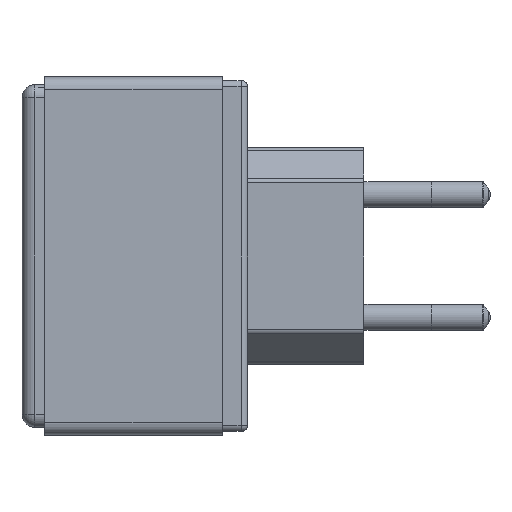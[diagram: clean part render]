
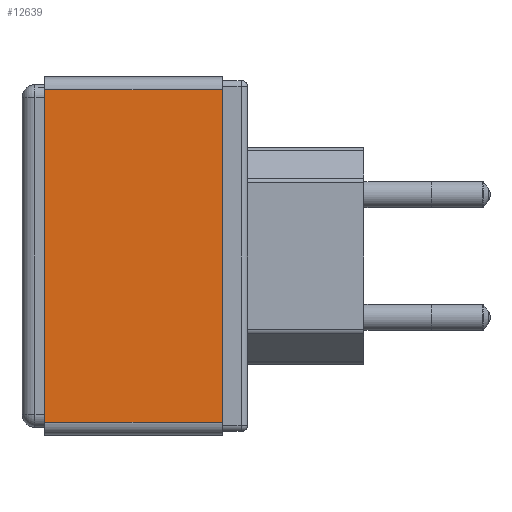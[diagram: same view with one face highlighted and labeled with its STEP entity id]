
A CAD part, left-side view. The second image highlights one B-rep face of the part: STEP entity #12639.
In plain terms, the highlighted planar face has unit normal (-1, 0, 0) as drawn and (1, 0, 0) by its records, which use the part's own axes.
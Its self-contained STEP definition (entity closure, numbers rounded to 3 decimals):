
#48 = AXIS2_PLACEMENT_3D ( 'NONE', #127, #5081, #8117 ) ;
#127 = CARTESIAN_POINT ( 'NONE',  ( 60.25, 15.5, 27.7 ) ) ;
#164 = VECTOR ( 'NONE', #4401, 1000. ) ;
#373 = VERTEX_POINT ( 'NONE', #9050 ) ;
#618 = CARTESIAN_POINT ( 'NONE',  ( 60.25, -15.5, 25.7 ) ) ;
#673 = LINE ( 'NONE', #10226, #10986 ) ;
#1176 = EDGE_LOOP ( 'NONE', ( #8311, #10511, #3227, #2224 ) ) ;
#1275 = CARTESIAN_POINT ( 'NONE',  ( 60.25, 12., 25.7 ) ) ;
#2224 = ORIENTED_EDGE ( 'NONE', *, *, #5123, .T. ) ;
#3227 = ORIENTED_EDGE ( 'NONE', *, *, #9818, .T. ) ;
#3230 = CARTESIAN_POINT ( 'NONE',  ( 60.25, -15.5, 27.7 ) ) ;
#3334 = CARTESIAN_POINT ( 'NONE',  ( 60.25, -15.5, -25.7 ) ) ;
#4401 = DIRECTION ( 'NONE',  ( 0., 0., 1. ) ) ;
#5081 = DIRECTION ( 'NONE',  ( -1., 0., 0. ) ) ;
#5123 = EDGE_CURVE ( 'NONE', #8109, #373, #10382, .T. ) ;
#5342 = CARTESIAN_POINT ( 'NONE',  ( 60.25, 12., 27.7 ) ) ;
#6245 = DIRECTION ( 'NONE',  ( 0., 1., 0. ) ) ;
#6728 = LINE ( 'NONE', #5342, #164 ) ;
#6907 = EDGE_CURVE ( 'NONE', #7577, #10124, #673, .T. ) ;
#7442 = VECTOR ( 'NONE', #10591, 1000. ) ;
#7577 = VERTEX_POINT ( 'NONE', #3334 ) ;
#8109 = VERTEX_POINT ( 'NONE', #1275 ) ;
#8117 = DIRECTION ( 'NONE',  ( 0., 0., 1. ) ) ;
#8213 = VECTOR ( 'NONE', #11220, 1000. ) ;
#8311 = ORIENTED_EDGE ( 'NONE', *, *, #12106, .T. ) ;
#8858 = LINE ( 'NONE', #3230, #8213 ) ;
#9050 = CARTESIAN_POINT ( 'NONE',  ( 60.25, -15.5, 25.7 ) ) ;
#9098 = FACE_OUTER_BOUND ( 'NONE', #1176, .T. ) ;
#9818 = EDGE_CURVE ( 'NONE', #10124, #8109, #6728, .T. ) ;
#10124 = VERTEX_POINT ( 'NONE', #12907 ) ;
#10226 = CARTESIAN_POINT ( 'NONE',  ( 60.25, 15.5, -25.7 ) ) ;
#10382 = LINE ( 'NONE', #618, #7442 ) ;
#10511 = ORIENTED_EDGE ( 'NONE', *, *, #6907, .T. ) ;
#10591 = DIRECTION ( 'NONE',  ( 0., -1., 0. ) ) ;
#10986 = VECTOR ( 'NONE', #6245, 1000. ) ;
#11220 = DIRECTION ( 'NONE',  ( 0., 0., -1. ) ) ;
#12095 = PLANE ( 'NONE',  #48 ) ;
#12106 = EDGE_CURVE ( 'NONE', #373, #7577, #8858, .T. ) ;
#12639 = ADVANCED_FACE ( 'NONE', ( #9098 ), #12095, .F. ) ;
#12907 = CARTESIAN_POINT ( 'NONE',  ( 60.25, 12., -25.7 ) ) ;
